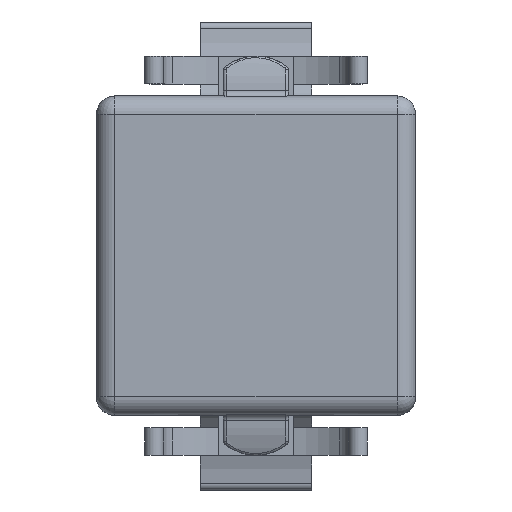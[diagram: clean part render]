
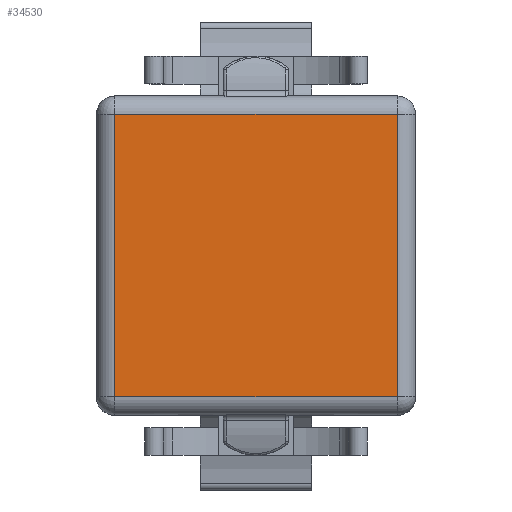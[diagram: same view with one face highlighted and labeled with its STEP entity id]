
A CAD part, top view. The second image highlights one B-rep face of the part: STEP entity #34530.
In plain terms, the highlighted planar face has unit normal (0, 0, 1).
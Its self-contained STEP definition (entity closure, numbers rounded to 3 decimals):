
#32314=DIRECTION('',(0.,-1.,0.));
#32315=VECTOR('',#32314,30.4);
#32316=CARTESIAN_POINT('',(-15.2,15.2,1.));
#32317=LINE('',#32316,#32315);
#32661=DIRECTION('',(0.,1.,0.));
#32662=VECTOR('',#32661,30.4);
#32663=CARTESIAN_POINT('',(15.2,-15.2,1.));
#32664=LINE('',#32663,#32662);
#32692=DIRECTION('',(1.,0.,0.));
#32693=VECTOR('',#32692,30.4);
#32694=CARTESIAN_POINT('',(-15.2,-15.2,1.));
#32695=LINE('',#32694,#32693);
#32715=DIRECTION('',(-1.,0.,0.));
#32716=VECTOR('',#32715,30.4);
#32717=CARTESIAN_POINT('',(15.2,15.2,1.));
#32718=LINE('',#32717,#32716);
#32977=CARTESIAN_POINT('',(15.2,-15.2,1.));
#32978=CARTESIAN_POINT('',(15.2,15.2,1.));
#32979=VERTEX_POINT('',#32977);
#32980=VERTEX_POINT('',#32978);
#32985=CARTESIAN_POINT('',(-15.2,15.2,1.));
#32986=VERTEX_POINT('',#32985);
#32987=CARTESIAN_POINT('',(-15.2,-15.2,1.));
#32988=VERTEX_POINT('',#32987);
#34518=CARTESIAN_POINT('',(0.,0.,1.));
#34519=DIRECTION('',(0.,0.,1.));
#34520=DIRECTION('',(1.,0.,0.));
#34521=AXIS2_PLACEMENT_3D('',#34518,#34519,#34520);
#34522=PLANE('',#34521);
#34523=ORIENTED_EDGE('',*,*,#34461,.F.);
#34524=ORIENTED_EDGE('',*,*,#34501,.F.);
#34525=ORIENTED_EDGE('',*,*,#33866,.F.);
#34527=ORIENTED_EDGE('',*,*,#34526,.F.);
#34528=EDGE_LOOP('',(#34523,#34524,#34525,#34527));
#34529=FACE_OUTER_BOUND('',#34528,.F.);
#34530=ADVANCED_FACE('',(#34529),#34522,.T.);
#33866=EDGE_CURVE('',#32986,#32988,#32317,.T.);
#34461=EDGE_CURVE('',#32979,#32980,#32664,.T.);
#34501=EDGE_CURVE('',#32988,#32979,#32695,.T.);
#34526=EDGE_CURVE('',#32980,#32986,#32718,.T.);
